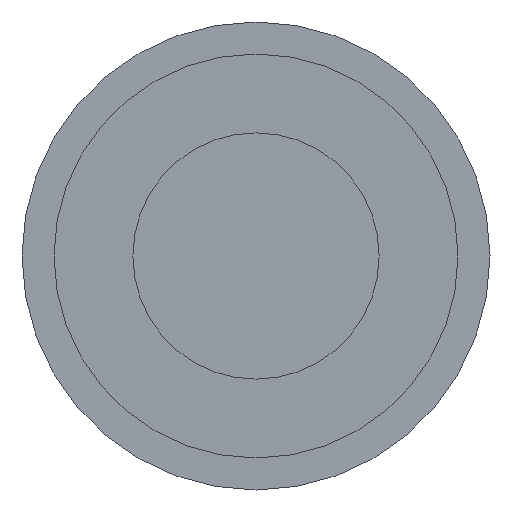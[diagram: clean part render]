
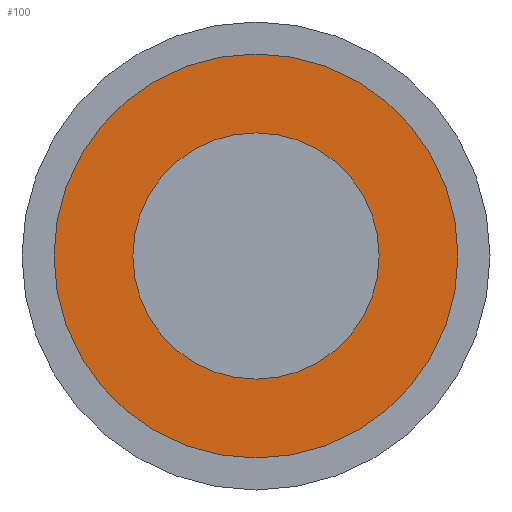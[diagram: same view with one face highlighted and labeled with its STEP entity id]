
A CAD part, left-side view. The second image highlights one B-rep face of the part: STEP entity #100.
In plain terms, the highlighted planar face has unit normal (-1, 0, 0).
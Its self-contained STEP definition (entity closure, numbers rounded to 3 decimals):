
#100 = ADVANCED_FACE( '', ( #161, #162 ), #163, .T. );
#161 = FACE_BOUND( '', #225, .T. );
#162 = FACE_OUTER_BOUND( '', #226, .T. );
#163 = PLANE( '', #227 );
#225 = EDGE_LOOP( '', ( #405, #406 ) );
#226 = EDGE_LOOP( '', ( #407, #408 ) );
#227 = AXIS2_PLACEMENT_3D( '', #409, #410, #411 );
#405 = ORIENTED_EDGE( '', *, *, #476, .F. );
#406 = ORIENTED_EDGE( '', *, *, #427, .F. );
#407 = ORIENTED_EDGE( '', *, *, #431, .T. );
#408 = ORIENTED_EDGE( '', *, *, #475, .T. );
#409 = CARTESIAN_POINT( '', ( 0., 6.6, 0. ) );
#410 = DIRECTION( '', ( -1., 0., 0. ) );
#411 = DIRECTION( '', ( 0., 1., 0. ) );
#427 = EDGE_CURVE( '', #483, #479, #485, .T. );
#431 = EDGE_CURVE( '', #487, #491, #493, .T. );
#475 = EDGE_CURVE( '', #491, #487, #565, .T. );
#476 = EDGE_CURVE( '', #479, #483, #566, .T. );
#479 = VERTEX_POINT( '', #569 );
#483 = VERTEX_POINT( '', #574 );
#485 = CIRCLE( '', #577, 5. );
#487 = VERTEX_POINT( '', #579 );
#491 = VERTEX_POINT( '', #584 );
#493 = CIRCLE( '', #587, 8.2 );
#565 = CIRCLE( '', #673, 8.2 );
#566 = CIRCLE( '', #674, 5. );
#569 = CARTESIAN_POINT( '', ( 0., 5., 0. ) );
#574 = CARTESIAN_POINT( '', ( 0., -5., 0. ) );
#577 = AXIS2_PLACEMENT_3D( '', #681, #682, #683 );
#579 = CARTESIAN_POINT( '', ( 0., 8.2, 0. ) );
#584 = CARTESIAN_POINT( '', ( 0., -8.2, 0. ) );
#587 = AXIS2_PLACEMENT_3D( '', #689, #690, #691 );
#673 = AXIS2_PLACEMENT_3D( '', #793, #794, #795 );
#674 = AXIS2_PLACEMENT_3D( '', #796, #797, #798 );
#681 = CARTESIAN_POINT( '', ( 0., 0., 0. ) );
#682 = DIRECTION( '', ( -1., 0., 0. ) );
#683 = DIRECTION( '', ( 0., 1., 0. ) );
#689 = CARTESIAN_POINT( '', ( 0., 0., 0. ) );
#690 = DIRECTION( '', ( -1., 0., 0. ) );
#691 = DIRECTION( '', ( 0., 1., 0. ) );
#793 = CARTESIAN_POINT( '', ( 0., 0., 0. ) );
#794 = DIRECTION( '', ( -1., 0., 0. ) );
#795 = DIRECTION( '', ( 0., 1., 0. ) );
#796 = CARTESIAN_POINT( '', ( 0., 0., 0. ) );
#797 = DIRECTION( '', ( -1., 0., 0. ) );
#798 = DIRECTION( '', ( 0., 1., 0. ) );
